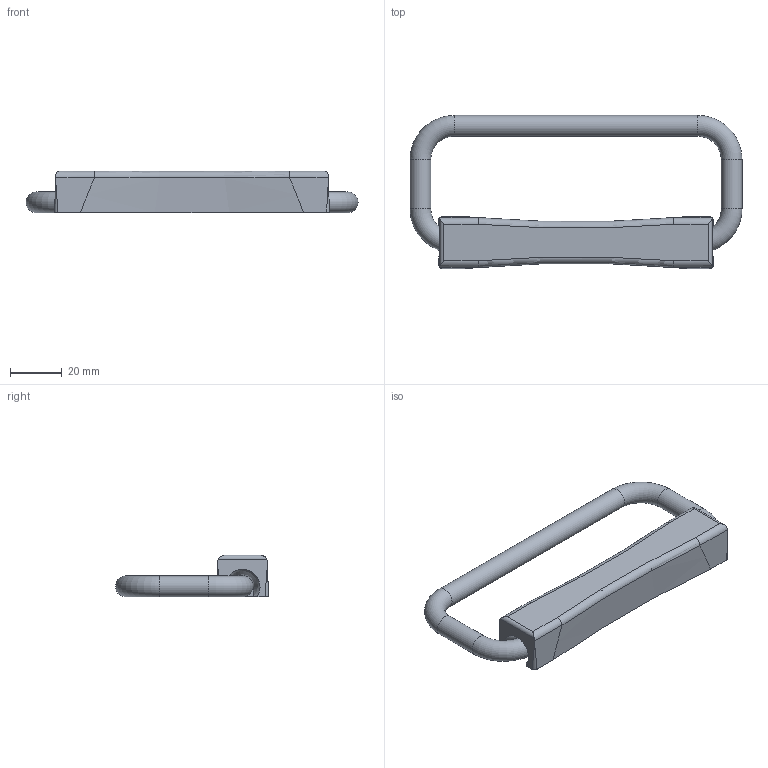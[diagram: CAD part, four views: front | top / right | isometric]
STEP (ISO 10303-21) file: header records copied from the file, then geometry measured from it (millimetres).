
FILE_DESCRIPTION( ( 'STEP AP203' ), '1' );
FILE_NAME( 'C:/Temp/Ganter_Step_05_03_2020/data/1_2/gn425_9/Stainless Steel-Folding handle GN 425.9-120-NI-C-3-GS (activated).stp', '2020-03-05T10:14:57', ( 'License CC BY-ND 4.0' ), ( 'CADENAS' ), ' ', 'PARTsolutions', ' ' );
FILE_SCHEMA( ( 'CONFIG_CONTROL_DESIGN' ) );
Length unit declared in the file: millimetre
Products named in the file (3): Stainless Steel-Folding handle GN 425.9-120-NI-C-3-GS (activated); _Edelstahl-Klappgriff GN 425.9-120-NI-C-3-GS (ausgeklappt)-1; _Edelstahl-Klappgriff GN 425.9-120-NI-C-3-GS (betaetigt)-2
Assembly tree (2 placements, depth 2):
  Stainless Steel-Folding handle GN 425.9-120-NI-C-3-GS (activated)
    _Edelstahl-Klappgriff GN 425.9-120-NI-C-3-GS (ausgeklappt)-1
    _Edelstahl-Klappgriff GN 425.9-120-NI-C-3-GS (betaetigt)-2
Bounding box: 128 x 59 x 16 mm (x, y, z)
Volume: 38858.1 mm3; surface area: 14011 mm2
Topology: 2 solids, 2 shells, 51 faces, 134 edges, 87 vertices
Faces by surface type: plane 24, cylinder 19, torus 8
Full cylindrical faces by diameter (mm): 8 x5
Entity records: 1864 total; most frequent: CARTESIAN_POINT 546, DIRECTION 250, ORIENTED_EDGE 248, EDGE_CURVE 124, AXIS2_PLACEMENT_3D 94, VERTEX_POINT 86, LINE 62, VECTOR 62
